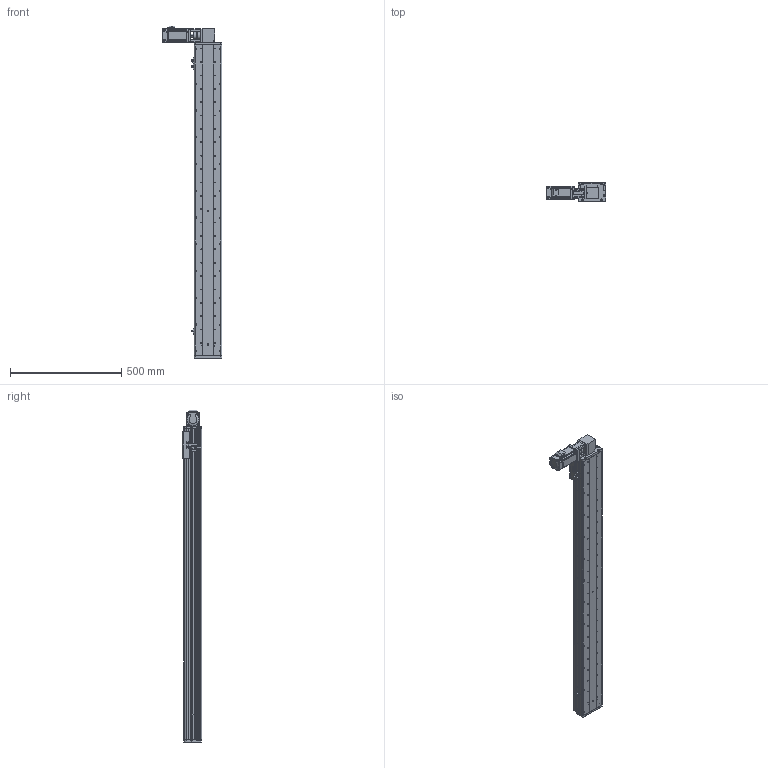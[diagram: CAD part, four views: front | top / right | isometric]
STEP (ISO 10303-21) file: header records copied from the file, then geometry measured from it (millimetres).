
FILE_DESCRIPTION (( 'STEP AP214' ), '1' );
FILE_NAME ('KSD125B-S1200-MRT-CM.STEP', '2017-08-07T07:40:18', ( '微软用户' ), ( '微软中国' ), 'SwSTEP 2.0', 'SolidWorks 2014', '' );
FILE_SCHEMA (( 'AUTOMOTIVE_DESIGN' ));
Length unit declared in the file: millimetre
Products named in the file (16): 100宽安装板同步带带电机座400W,86; 100宽马达安装板同步带右; 前端板-125宽模组同步带; 125模组同步带-尾端板1; KSD125模组同步带-滑动座1; KSD125B-S1200-MRT-CM; KSD125模组1200行程同步带-防尘盖; 125模组1200行程同步带-底板; MHMD042G1CA_2_03; KSD125模组同步带-防撞垫2; CS-34X32-10X14; 100遵鎮湛假蚾啣1 ; 覜茼え68遵圉猾敕; U倰嫖萇假蚾璃; U倰嫖萇EEㄜSX672; KSD125模组同步带-防撞垫1
Assembly tree (19 placements, depth 2):
  KSD125B-S1200-MRT-CM
    KSD125模组同步带-滑动座1
    125模组同步带-尾端板1
    前端板-125宽模组同步带
    100宽马达安装板同步带右
    100宽安装板同步带带电机座400W,86
    KSD125模组同步带-防撞垫1
    U倰嫖萇EEㄜSX672  x3
    U倰嫖萇假蚾璃  x3
    覜茼え68遵圉猾敕
    100遵鎮湛假蚾啣1 
    CS-34X32-10X14
    KSD125模组同步带-防撞垫2
    MHMD042G1CA_2_03
    125模组1200行程同步带-底板
    KSD125模组1200行程同步带-防尘盖
Bounding box: 269 x 86 x 1489 mm (x, y, z)
Volume: 4442898 mm3; surface area: 1456458.3 mm2
Topology: 18 solids, 21 shells, 1750 faces, 5026 edges, 3316 vertices
Faces by surface type: cylinder 937, plane 710, cone 81, bspline 22
Entity records: 61926 total; most frequent: CARTESIAN_POINT 12476, DIRECTION 9077, ORIENTED_EDGE 8572, EDGE_CURVE 4364, AXIS2_PLACEMENT_3D 3393, VERTEX_POINT 2908, VECTOR 2291, LINE 2291
